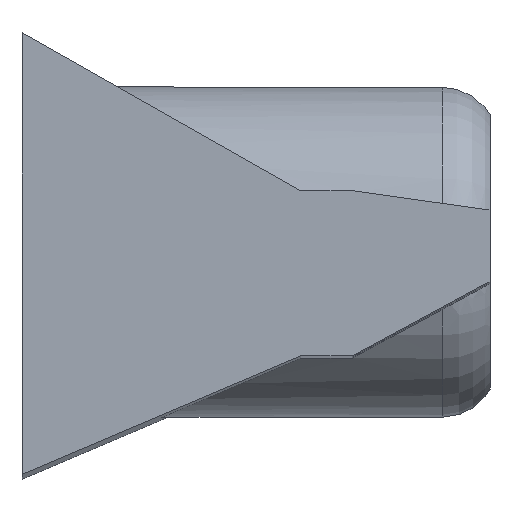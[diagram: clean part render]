
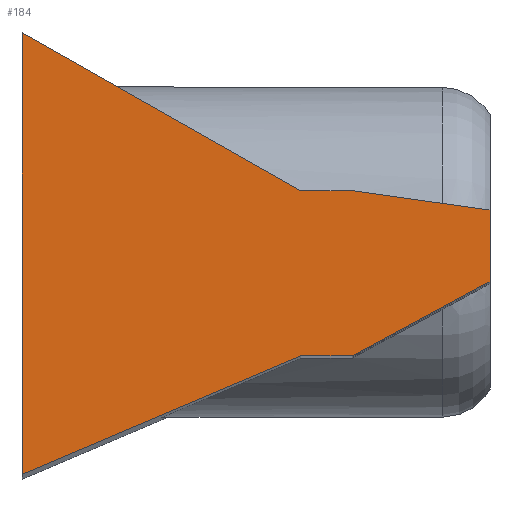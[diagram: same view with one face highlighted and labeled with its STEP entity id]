
A CAD part, top view. The second image highlights one B-rep face of the part: STEP entity #184.
In plain terms, the highlighted planar face has unit normal (0, 0, 1).
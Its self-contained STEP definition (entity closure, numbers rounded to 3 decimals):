
#184=ADVANCED_FACE('',(#567),#569,.T.);
#567=FACE_BOUND('',#568,.T.);
#568=EDGE_LOOP('',(#855,#856,#857,#858,#859,#860,#861,#862));
#569=PLANE('',#570);
#570=AXIS2_PLACEMENT_3D('',#571,#572,#573);
#571=CARTESIAN_POINT('',(0.,0.,25.3));
#572=DIRECTION('',(0.,0.,1.));
#573=DIRECTION('',(1.,0.,0.));
#855=ORIENTED_EDGE('',*,*,#1014,.T.);
#856=ORIENTED_EDGE('',*,*,#1053,.T.);
#857=ORIENTED_EDGE('',*,*,#1055,.T.);
#858=ORIENTED_EDGE('',*,*,#1056,.T.);
#859=ORIENTED_EDGE('',*,*,#1057,.T.);
#860=ORIENTED_EDGE('',*,*,#1058,.T.);
#861=ORIENTED_EDGE('',*,*,#1059,.T.);
#862=ORIENTED_EDGE('',*,*,#1060,.T.);
#1014=EDGE_CURVE('',#1135,#1133,#1136,.F.);
#1053=EDGE_CURVE('',#1133,#1198,#1200,.T.);
#1055=EDGE_CURVE('',#1198,#1202,#1203,.T.);
#1056=EDGE_CURVE('',#1202,#1204,#1205,.T.);
#1057=EDGE_CURVE('',#1204,#1206,#1207,.T.);
#1058=EDGE_CURVE('',#1206,#1208,#1209,.T.);
#1059=EDGE_CURVE('',#1208,#1210,#1211,.T.);
#1060=EDGE_CURVE('',#1210,#1135,#1212,.T.);
#1133=VERTEX_POINT('',#1338);
#1135=VERTEX_POINT('',#1342);
#1136=LINE('',#1343,#1344);
#1198=VERTEX_POINT('',#1575);
#1200=LINE('',#1579,#1580);
#1202=VERTEX_POINT('',#1585);
#1203=LINE('',#1586,#1587);
#1204=VERTEX_POINT('',#1589);
#1205=LINE('',#1590,#1591);
#1206=VERTEX_POINT('',#1593);
#1207=LINE('',#1594,#1595);
#1208=VERTEX_POINT('',#1597);
#1209=LINE('',#1598,#1599);
#1210=VERTEX_POINT('',#1601);
#1211=LINE('',#1602,#1603);
#1212=LINE('',#1605,#1606);
#1338=CARTESIAN_POINT('',(2.,-5.174,25.3));
#1342=CARTESIAN_POINT('',(2.,2.842,25.3));
#1343=CARTESIAN_POINT('',(2.,-5.174,25.3));
#1344=VECTOR('',#1345,1.);
#1345=DIRECTION('',(0.,1.,0.));
#1575=CARTESIAN_POINT('',(7.058,-3.024,25.3));
#1579=CARTESIAN_POINT('',(2.,-5.174,25.3));
#1580=VECTOR('',#1581,1.);
#1581=DIRECTION('',(0.92,0.391,0.));
#1585=CARTESIAN_POINT('',(8.,-3.024,25.3));
#1586=CARTESIAN_POINT('',(7.058,-3.024,25.3));
#1587=VECTOR('',#1588,1.);
#1588=DIRECTION('',(1.,0.,0.));
#1589=CARTESIAN_POINT('',(10.5,-1.673,25.3));
#1590=CARTESIAN_POINT('',(8.,-3.024,25.3));
#1591=VECTOR('',#1592,1.);
#1592=DIRECTION('',(0.88,0.476,0.));
#1593=CARTESIAN_POINT('',(10.5,-0.376,25.3));
#1594=CARTESIAN_POINT('',(10.5,-1.673,25.3));
#1595=VECTOR('',#1596,1.);
#1596=DIRECTION('',(0.,1.,0.));
#1597=CARTESIAN_POINT('',(8.,-0.024,25.3));
#1598=CARTESIAN_POINT('',(10.5,-0.376,25.3));
#1599=VECTOR('',#1600,1.);
#1600=DIRECTION('',(-0.99,0.139,0.));
#1601=CARTESIAN_POINT('',(7.058,-0.024,25.3));
#1602=CARTESIAN_POINT('',(8.,-0.024,25.3));
#1603=VECTOR('',#1604,1.);
#1604=DIRECTION('',(-1.,0.,0.));
#1605=CARTESIAN_POINT('',(7.058,-0.024,25.3));
#1606=VECTOR('',#1607,1.);
#1607=DIRECTION('',(-0.87,0.493,0.));
